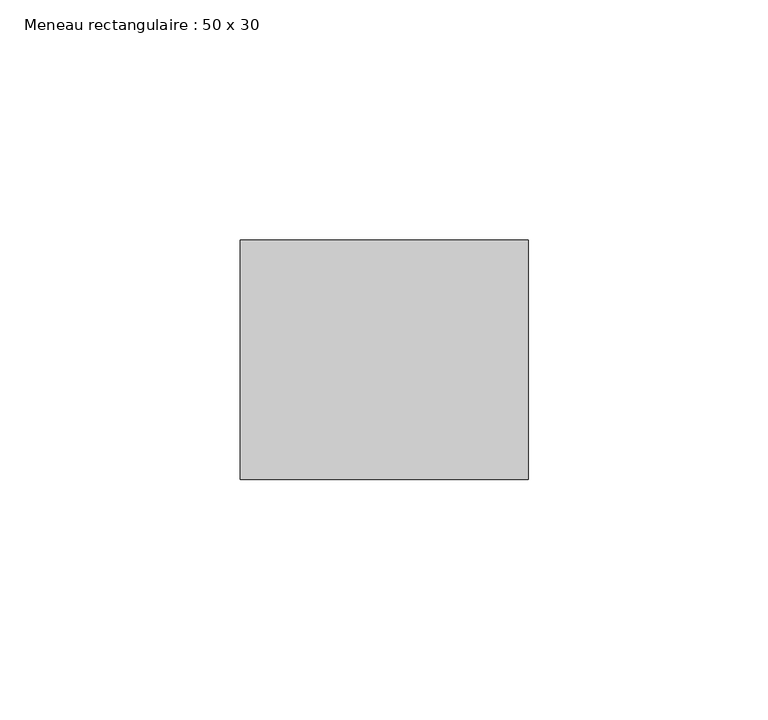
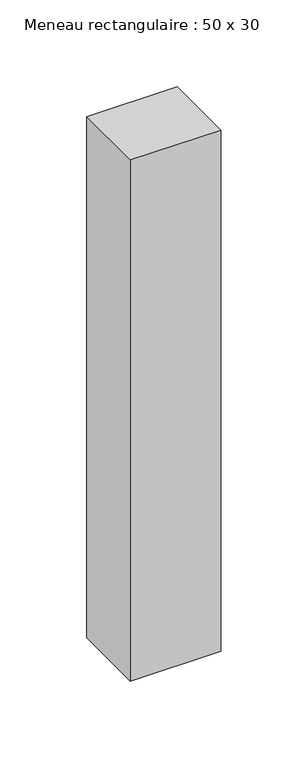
"""IFC4 building model written with IfcOpenShell, lengths in millimetres: member geometry, Meneau rectangulaire : 50 x 30."""

from ifc_helpers import new_model, si_unit, frame, origin, place, context, project, spatial, polyline, outline, extrude, source, transform, mapped, element, save


def meneau_rectangulaire_50_x_30_2e285b96(model_context):
    return source(origin(), model_context, "Body", "SweptSolid", [
        extrude(outline(polyline([(0.0, 0.0), (0.0, -50.0), (-60.0, -50.0), (-60.0, 0.0), (0.0, 0.0)])), frame((0.0, 0.0, -366.0), z_axis=(0.0, 0.0, 1.0), x_axis=(1.0, 0.0, 0.0)), (0.0, 0.0, 1.0), 366.0),
    ])


if __name__ == "__main__":
    model = new_model("IFC4")
    model_context = context("Model", 3, world=origin())
    ifc_project = project(units=[si_unit("LENGTHUNIT", "METRE", prefix="MILLI")], contexts=[model_context])
    site = spatial("IfcSite", under=ifc_project)
    building = spatial("IfcBuilding", under=site)
    placement = place(None, origin())
    meneau_rectangulaire_50_x_30_shape = meneau_rectangulaire_50_x_30_2e285b96(model_context)
    element("IfcMember", 1, ObjectType="Meneau rectangulaire : 50 x 30", at=placement, inside=building, context=model_context, shape_type="MappedRepresentation", body=[
        mapped(meneau_rectangulaire_50_x_30_shape, transform((0.0, 0.0, 0.0), x_axis=(1.0, 0.0, 0.0), y_axis=(0.0, 1.0, 0.0), z_axis=(0.0, 0.0, 1.0))),
    ])
    save(model, "model.ifc")
